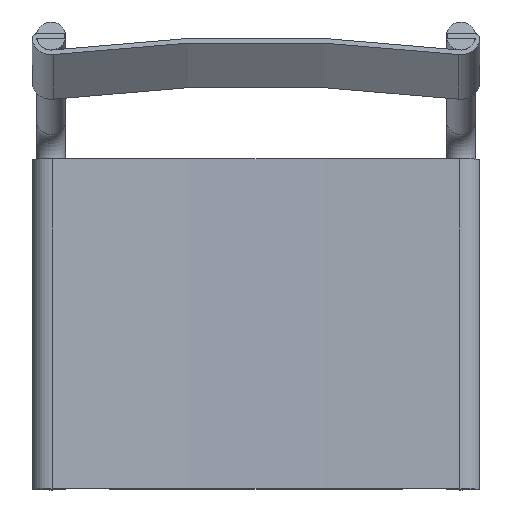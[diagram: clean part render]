
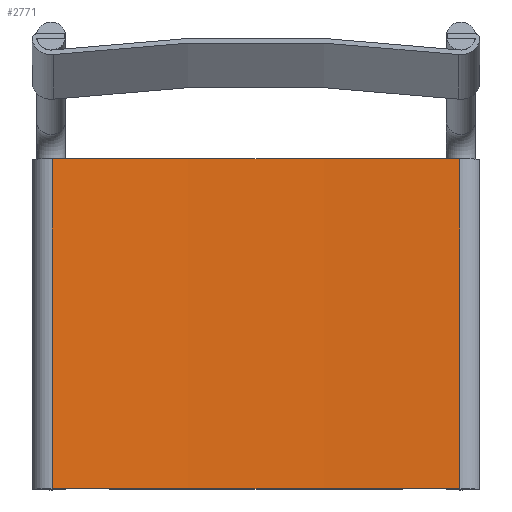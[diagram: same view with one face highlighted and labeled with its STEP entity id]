
A CAD part, top view. The second image highlights one B-rep face of the part: STEP entity #2771.
In plain terms, the highlighted cylindrical face has radius 4401.32 mm (diameter 8802.63 mm), a partial arc.
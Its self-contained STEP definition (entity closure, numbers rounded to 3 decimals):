
#295=CIRCLE('',#3195,4401.316);
#296=CIRCLE('',#3196,4401.316);
#375=CYLINDRICAL_SURFACE('',#3194,4401.316);
#485=FACE_OUTER_BOUND('',#671,.T.);
#671=EDGE_LOOP('',(#2183,#2184,#2185,#2186));
#878=LINE('',#5335,#1096);
#879=LINE('',#5341,#1097);
#1096=VECTOR('',#3726,10.);
#1097=VECTOR('',#3733,10.);
#1325=VERTEX_POINT('',#5332);
#1326=VERTEX_POINT('',#5334);
#1327=VERTEX_POINT('',#5338);
#1328=VERTEX_POINT('',#5340);
#1627=EDGE_CURVE('',#1325,#1326,#878,.T.);
#1629=EDGE_CURVE('',#1325,#1327,#295,.T.);
#1630=EDGE_CURVE('',#1327,#1328,#879,.T.);
#1631=EDGE_CURVE('',#1326,#1328,#296,.T.);
#2183=ORIENTED_EDGE('',*,*,#1629,.T.);
#2184=ORIENTED_EDGE('',*,*,#1630,.T.);
#2185=ORIENTED_EDGE('',*,*,#1631,.F.);
#2186=ORIENTED_EDGE('',*,*,#1627,.F.);
#2771=ADVANCED_FACE('',(#485),#375,.F.);
#3194=AXIS2_PLACEMENT_3D('',#5337,#3729,#3730);
#3195=AXIS2_PLACEMENT_3D('',#5339,#3731,#3732);
#3196=AXIS2_PLACEMENT_3D('',#5342,#3734,#3735);
#3726=DIRECTION('',(0.,-0.052,0.999));
#3729=DIRECTION('center_axis',(0.,-0.052,
0.999));
#3730=DIRECTION('ref_axis',(0.048,-0.998,-0.052));
#3731=DIRECTION('center_axis',(0.,0.052,
-0.999));
#3732=DIRECTION('ref_axis',(0.048,-0.998,-0.052));
#3733=DIRECTION('',(0.,-0.052,0.999));
#3734=DIRECTION('center_axis',(0.,0.052,
-0.999));
#3735=DIRECTION('ref_axis',(0.048,-0.998,-0.052));
#5332=CARTESIAN_POINT('',(-0.951,469.95,-445.614));
#5334=CARTESIAN_POINT('',(-0.951,452.221,-107.329));
#5335=CARTESIAN_POINT('',(-0.951,469.95,-445.614));
#5337=CARTESIAN_POINT('Origin',(-210.21,4860.264,-215.527));
#5338=CARTESIAN_POINT('',(-419.469,469.95,-445.614));
#5339=CARTESIAN_POINT('Origin',(-210.21,4860.264,-215.527));
#5340=CARTESIAN_POINT('',(-419.469,452.221,-107.329));
#5341=CARTESIAN_POINT('',(-419.469,469.95,-445.614));
#5342=CARTESIAN_POINT('Origin',(-210.21,4842.535,122.757));
